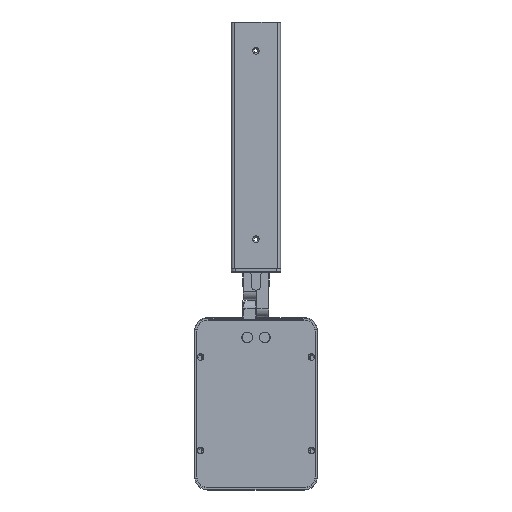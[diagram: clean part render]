
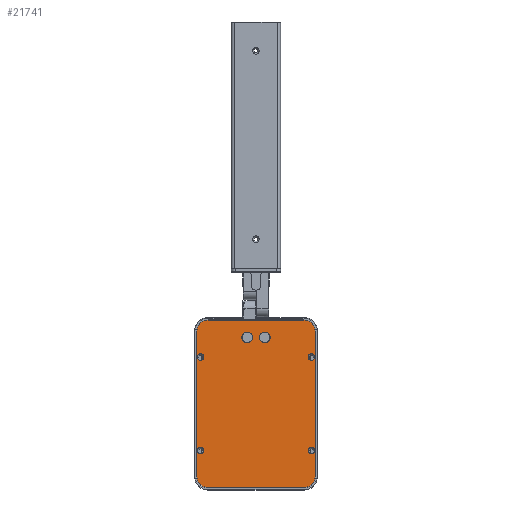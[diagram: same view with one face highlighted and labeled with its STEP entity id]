
A CAD part, front view. The second image highlights one B-rep face of the part: STEP entity #21741.
In plain terms, the highlighted planar face has unit normal (0, -1, 0).
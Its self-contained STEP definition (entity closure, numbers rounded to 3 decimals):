
#9869=CARTESIAN_POINT('',(67.5,0.5,57.));
#9870=DIRECTION('',(0.,-1.,0.));
#9871=DIRECTION('',(1.,0.,0.));
#9872=AXIS2_PLACEMENT_3D('',#9869,#9870,#9871);
#9874=CARTESIAN_POINT('',(67.5,0.5,57.));
#9875=DIRECTION('',(0.,-1.,0.));
#9876=DIRECTION('',(-1.,0.,0.));
#9877=AXIS2_PLACEMENT_3D('',#9874,#9875,#9876);
#9879=CARTESIAN_POINT('',(-67.5,0.5,-57.));
#9880=DIRECTION('',(0.,-1.,0.));
#9881=DIRECTION('',(-1.,0.,0.));
#9882=AXIS2_PLACEMENT_3D('',#9879,#9880,#9881);
#9884=CARTESIAN_POINT('',(-67.5,0.5,-57.));
#9885=DIRECTION('',(0.,-1.,0.));
#9886=DIRECTION('',(1.,0.,0.));
#9887=AXIS2_PLACEMENT_3D('',#9884,#9885,#9886);
#9889=CARTESIAN_POINT('',(-67.5,0.5,57.));
#9890=DIRECTION('',(0.,-1.,0.));
#9891=DIRECTION('',(1.,0.,0.));
#9892=AXIS2_PLACEMENT_3D('',#9889,#9890,#9891);
#9894=CARTESIAN_POINT('',(-67.5,0.5,57.));
#9895=DIRECTION('',(0.,-1.,0.));
#9896=DIRECTION('',(-1.,0.,0.));
#9897=AXIS2_PLACEMENT_3D('',#9894,#9895,#9896);
#9899=CARTESIAN_POINT('',(67.5,0.5,-57.));
#9900=DIRECTION('',(0.,-1.,0.));
#9901=DIRECTION('',(-1.,0.,0.));
#9902=AXIS2_PLACEMENT_3D('',#9899,#9900,#9901);
#9904=CARTESIAN_POINT('',(67.5,0.5,-57.));
#9905=DIRECTION('',(0.,-1.,0.));
#9906=DIRECTION('',(1.,0.,0.));
#9907=AXIS2_PLACEMENT_3D('',#9904,#9905,#9906);
#9909=CARTESIAN_POINT('',(58.5,0.5,-88.5));
#9910=DIRECTION('',(0.,1.,0.));
#9911=DIRECTION('',(1.,0.,0.));
#9912=AXIS2_PLACEMENT_3D('',#9909,#9910,#9911);
#9914=DIRECTION('',(-1.,0.,0.));
#9915=VECTOR('',#9914,117.);
#9916=CARTESIAN_POINT('',(58.5,0.5,-102.));
#9917=LINE('',#9916,#9915);
#9918=CARTESIAN_POINT('',(-58.5,0.5,-88.5));
#9919=DIRECTION('',(0.,1.,0.));
#9920=DIRECTION('',(0.,0.,-1.));
#9921=AXIS2_PLACEMENT_3D('',#9918,#9919,#9920);
#9923=DIRECTION('',(0.,0.,1.));
#9924=VECTOR('',#9923,177.);
#9925=CARTESIAN_POINT('',(-72.,0.5,-88.5));
#9926=LINE('',#9925,#9924);
#9927=CARTESIAN_POINT('',(-58.5,0.5,88.5));
#9928=DIRECTION('',(0.,1.,0.));
#9929=DIRECTION('',(-1.,0.,0.));
#9930=AXIS2_PLACEMENT_3D('',#9927,#9928,#9929);
#9932=DIRECTION('',(1.,0.,0.));
#9933=VECTOR('',#9932,117.);
#9934=CARTESIAN_POINT('',(-58.5,0.5,102.));
#9935=LINE('',#9934,#9933);
#9936=CARTESIAN_POINT('',(58.5,0.5,88.5));
#9937=DIRECTION('',(0.,1.,0.));
#9938=DIRECTION('',(0.,0.,1.));
#9939=AXIS2_PLACEMENT_3D('',#9936,#9937,#9938);
#9941=DIRECTION('',(0.,0.,-1.));
#9942=VECTOR('',#9941,177.);
#9943=CARTESIAN_POINT('',(72.,0.5,88.5));
#9944=LINE('',#9943,#9942);
#9945=CARTESIAN_POINT('',(-10.65,0.5,81.));
#9946=DIRECTION('',(0.,-1.,0.));
#9947=DIRECTION('',(1.,0.,0.));
#9948=AXIS2_PLACEMENT_3D('',#9945,#9946,#9947);
#9950=CARTESIAN_POINT('',(-10.65,0.5,81.));
#9951=DIRECTION('',(0.,-1.,0.));
#9952=DIRECTION('',(-1.,0.,0.));
#9953=AXIS2_PLACEMENT_3D('',#9950,#9951,#9952);
#9955=CARTESIAN_POINT('',(10.65,0.5,81.));
#9956=DIRECTION('',(0.,-1.,0.));
#9957=DIRECTION('',(1.,0.,0.));
#9958=AXIS2_PLACEMENT_3D('',#9955,#9956,#9957);
#9960=CARTESIAN_POINT('',(10.65,0.5,81.));
#9961=DIRECTION('',(0.,-1.,0.));
#9962=DIRECTION('',(-1.,0.,0.));
#9963=AXIS2_PLACEMENT_3D('',#9960,#9961,#9962);
#18944=CARTESIAN_POINT('',(71.55,0.5,57.));
#18945=CARTESIAN_POINT('',(63.45,0.5,57.));
#18946=VERTEX_POINT('',#18944);
#18947=VERTEX_POINT('',#18945);
#18952=CARTESIAN_POINT('',(58.5,0.5,-102.));
#18953=CARTESIAN_POINT('',(72.,0.5,-88.5));
#18954=VERTEX_POINT('',#18952);
#18955=VERTEX_POINT('',#18953);
#18956=CARTESIAN_POINT('',(72.,0.5,88.5));
#18957=VERTEX_POINT('',#18956);
#18958=CARTESIAN_POINT('',(58.5,0.5,102.));
#18959=VERTEX_POINT('',#18958);
#18960=CARTESIAN_POINT('',(-58.5,0.5,102.));
#18961=VERTEX_POINT('',#18960);
#18962=CARTESIAN_POINT('',(-72.,0.5,88.5));
#18963=VERTEX_POINT('',#18962);
#18964=CARTESIAN_POINT('',(-72.,0.5,-88.5));
#18965=VERTEX_POINT('',#18964);
#18966=CARTESIAN_POINT('',(-58.5,0.5,-102.));
#18967=VERTEX_POINT('',#18966);
#18988=CARTESIAN_POINT('',(-71.55,0.5,-57.));
#18989=CARTESIAN_POINT('',(-63.45,0.5,-57.));
#18990=VERTEX_POINT('',#18988);
#18991=VERTEX_POINT('',#18989);
#19000=CARTESIAN_POINT('',(-71.55,0.5,57.));
#19001=CARTESIAN_POINT('',(-63.45,0.5,57.));
#19002=VERTEX_POINT('',#19000);
#19003=VERTEX_POINT('',#19001);
#19004=CARTESIAN_POINT('',(71.55,0.5,-57.));
#19005=CARTESIAN_POINT('',(63.45,0.5,-57.));
#19006=VERTEX_POINT('',#19004);
#19007=VERTEX_POINT('',#19005);
#19291=CARTESIAN_POINT('',(-17.2,0.5,81.));
#19292=CARTESIAN_POINT('',(-4.1,0.5,81.));
#19293=VERTEX_POINT('',#19291);
#19294=VERTEX_POINT('',#19292);
#19295=CARTESIAN_POINT('',(4.1,0.5,81.));
#19296=CARTESIAN_POINT('',(17.2,0.5,81.));
#19297=VERTEX_POINT('',#19295);
#19298=VERTEX_POINT('',#19296);
#21682=CARTESIAN_POINT('',(0.,0.5,0.));
#21683=DIRECTION('',(0.,1.,0.));
#21684=DIRECTION('',(1.,0.,0.));
#21685=AXIS2_PLACEMENT_3D('',#21682,#21683,#21684);
#21686=PLANE('',#21685);
#21688=ORIENTED_EDGE('',*,*,#21687,.T.);
#21690=ORIENTED_EDGE('',*,*,#21689,.T.);
#21692=ORIENTED_EDGE('',*,*,#21691,.T.);
#21694=ORIENTED_EDGE('',*,*,#21693,.T.);
#21696=ORIENTED_EDGE('',*,*,#21695,.T.);
#21698=ORIENTED_EDGE('',*,*,#21697,.T.);
#21700=ORIENTED_EDGE('',*,*,#21699,.T.);
#21702=ORIENTED_EDGE('',*,*,#21701,.T.);
#21703=EDGE_LOOP('',(#21688,#21690,#21692,#21694,#21696,#21698,#21700,#21702));
#21704=FACE_OUTER_BOUND('',#21703,.F.);
#21706=ORIENTED_EDGE('',*,*,#21705,.T.);
#21708=ORIENTED_EDGE('',*,*,#21707,.T.);
#21709=EDGE_LOOP('',(#21706,#21708));
#21710=FACE_BOUND('',#21709,.F.);
#21712=ORIENTED_EDGE('',*,*,#21711,.T.);
#21714=ORIENTED_EDGE('',*,*,#21713,.T.);
#21715=EDGE_LOOP('',(#21712,#21714));
#21716=FACE_BOUND('',#21715,.F.);
#21718=ORIENTED_EDGE('',*,*,#21717,.T.);
#21720=ORIENTED_EDGE('',*,*,#21719,.T.);
#21721=EDGE_LOOP('',(#21718,#21720));
#21722=FACE_BOUND('',#21721,.F.);
#21724=ORIENTED_EDGE('',*,*,#21723,.T.);
#21726=ORIENTED_EDGE('',*,*,#21725,.T.);
#21727=EDGE_LOOP('',(#21724,#21726));
#21728=FACE_BOUND('',#21727,.F.);
#21730=ORIENTED_EDGE('',*,*,#21729,.T.);
#21732=ORIENTED_EDGE('',*,*,#21731,.T.);
#21733=EDGE_LOOP('',(#21730,#21732));
#21734=FACE_BOUND('',#21733,.F.);
#21736=ORIENTED_EDGE('',*,*,#21735,.T.);
#21738=ORIENTED_EDGE('',*,*,#21737,.T.);
#21739=EDGE_LOOP('',(#21736,#21738));
#21740=FACE_BOUND('',#21739,.F.);
#21741=ADVANCED_FACE('',(#21704,#21710,#21716,#21722,#21728,#21734,#21740),
#21686,.F.);
#9873=CIRCLE('',#9872,4.05);
#9878=CIRCLE('',#9877,4.05);
#9883=CIRCLE('',#9882,4.05);
#9888=CIRCLE('',#9887,4.05);
#9893=CIRCLE('',#9892,4.05);
#9898=CIRCLE('',#9897,4.05);
#9903=CIRCLE('',#9902,4.05);
#9908=CIRCLE('',#9907,4.05);
#9913=CIRCLE('',#9912,13.5);
#9922=CIRCLE('',#9921,13.5);
#9931=CIRCLE('',#9930,13.5);
#9940=CIRCLE('',#9939,13.5);
#9949=CIRCLE('',#9948,6.55);
#9954=CIRCLE('',#9953,6.55);
#9959=CIRCLE('',#9958,6.55);
#9964=CIRCLE('',#9963,6.55);
#21687=EDGE_CURVE('',#18955,#18954,#9913,.T.);
#21689=EDGE_CURVE('',#18954,#18967,#9917,.T.);
#21691=EDGE_CURVE('',#18967,#18965,#9922,.T.);
#21693=EDGE_CURVE('',#18965,#18963,#9926,.T.);
#21695=EDGE_CURVE('',#18963,#18961,#9931,.T.);
#21697=EDGE_CURVE('',#18961,#18959,#9935,.T.);
#21699=EDGE_CURVE('',#18959,#18957,#9940,.T.);
#21701=EDGE_CURVE('',#18957,#18955,#9944,.T.);
#21705=EDGE_CURVE('',#18990,#18991,#9883,.T.);
#21707=EDGE_CURVE('',#18991,#18990,#9888,.T.);
#21711=EDGE_CURVE('',#19003,#19002,#9893,.T.);
#21713=EDGE_CURVE('',#19002,#19003,#9898,.T.);
#21717=EDGE_CURVE('',#19007,#19006,#9903,.T.);
#21719=EDGE_CURVE('',#19006,#19007,#9908,.T.);
#21723=EDGE_CURVE('',#18946,#18947,#9873,.T.);
#21725=EDGE_CURVE('',#18947,#18946,#9878,.T.);
#21729=EDGE_CURVE('',#19294,#19293,#9949,.T.);
#21731=EDGE_CURVE('',#19293,#19294,#9954,.T.);
#21735=EDGE_CURVE('',#19298,#19297,#9959,.T.);
#21737=EDGE_CURVE('',#19297,#19298,#9964,.T.);
